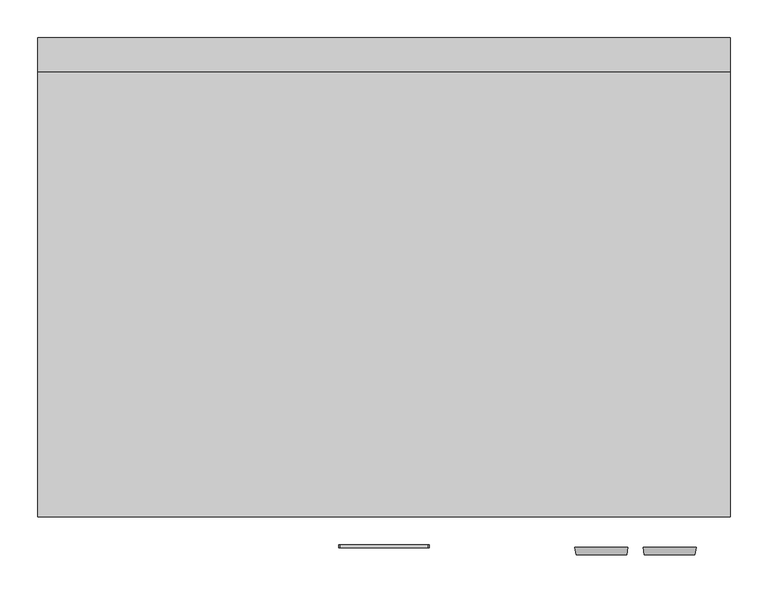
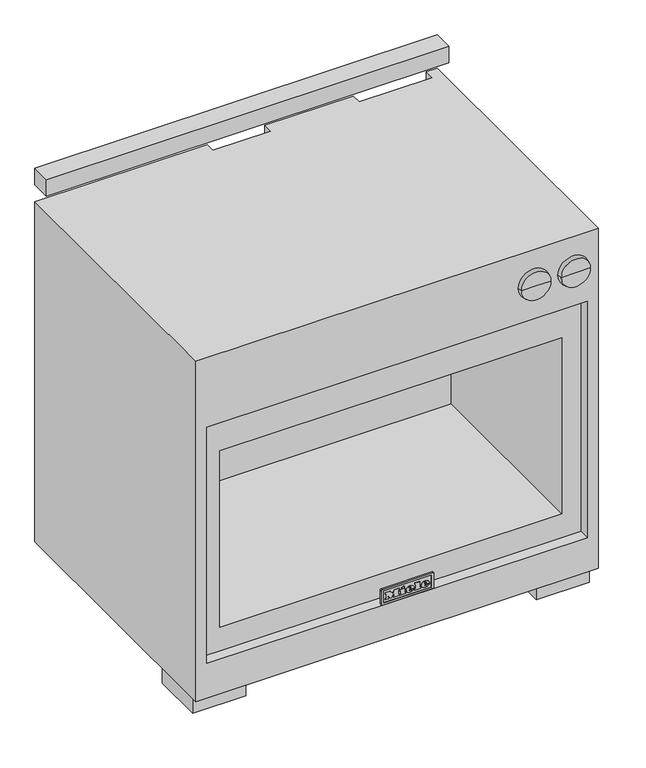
"""IFC4 building model written with IfcOpenShell, lengths in millimetres: proxy geometry, 10902410_USA_HR1936-2G_EDST-CLST : 25193671_USA_10902410_HR1936-2G_EDST-CLST."""

from ifc_helpers import new_model, si_unit, point, frame, frame_2d, origin, origin_with_axes, place, context, project, spatial, polyline, circle_curve, ellipse_curve, trimmed, segment, composite_curve, outline, extrude, faceted_brep, source, transform, mapped, element, save
from ifc_brep_helpers import plane_surface, cylinder_surface, revolved_surface, extruded_surface, advanced_brep


def specialty_equipment_07847b57(model_context):
    return source(origin(), model_context, "Body", "SolidModel", [
        advanced_brep(
        [(253.7632698, -683.0, 813.0), (320.2367302, -683.0, 813.0), (287.0, -683.0, 813.0), (252.0, -673.0, 813.0), (322.0, -673.0, 813.0), (287.0, -673.0, 813.0)],
        [
            (0, 1, circle_curve(frame((287.0, -683.0, 813.0), z_axis=(0.0, -1.0, 0.0), x_axis=(1.0, 0.0, 0.0)), 33.2367302)),
            (1, 2),
            (2, 0),
            (1, 0, circle_curve(frame((287.0, -683.0, 813.0), z_axis=(0.0, -1.0, 0.0), x_axis=(1.0, 0.0, 0.0)), 33.2367302)),
            (3, 4, circle_curve(frame((287.0, -673.0, 813.0), z_axis=(0.0, -1.0, 0.0), x_axis=(1.0, 0.0, 0.0)), 35.0)),
            (4, 1),
            (0, 3),
            (4, 3, circle_curve(frame((287.0, -673.0, 813.0), z_axis=(0.0, -1.0, 0.0), x_axis=(1.0, 0.0, 0.0)), 35.0)),
            (5, 4),
            (3, 5),
        ],
        [
            plane_surface(frame((287.0, -683.0, 813.0), z_axis=(0.0, -1.0, 0.0), x_axis=(1.0, 0.0, 0.0))),
            revolved_surface(polyline([(320.2367302, -683.0, 813.0), (322.0, -673.0, 813.0)]), (287.0, 751.3738435, 813.0), (0.0, 1.0, 0.0)),
            plane_surface(frame((287.0, -673.0, 813.0), z_axis=(0.0, 1.0, 0.0), x_axis=(1.0, 0.0, 0.0))),
        ],
        [
            (0, [[1, 2, 3]]),
            (0, [[4, -3, -2]]),
            (1, [[5, 6, -1, 7]]),
            (1, [[8, -7, -4, -6]]),
            (2, [[9, -5, 10]]),
            (2, [[-10, -8, -9]]),
        ],
    ),
        advanced_brep(
        [(343.7632698, -683.0, 813.0), (410.2367302, -683.0, 813.0), (377.0, -683.0, 813.0), (342.0, -673.0, 813.0), (412.0, -673.0, 813.0), (377.0, -673.0, 813.0)],
        [
            (0, 1, circle_curve(frame((377.0, -683.0, 813.0), z_axis=(0.0, -1.0, 0.0), x_axis=(1.0, 0.0, 0.0)), 33.2367302)),
            (1, 2),
            (2, 0),
            (1, 0, circle_curve(frame((377.0, -683.0, 813.0), z_axis=(0.0, -1.0, 0.0), x_axis=(1.0, 0.0, 0.0)), 33.2367302)),
            (3, 4, circle_curve(frame((377.0, -673.0, 813.0), z_axis=(0.0, -1.0, 0.0), x_axis=(1.0, 0.0, 0.0)), 35.0)),
            (4, 1),
            (0, 3),
            (4, 3, circle_curve(frame((377.0, -673.0, 813.0), z_axis=(0.0, -1.0, 0.0), x_axis=(1.0, 0.0, 0.0)), 35.0)),
            (5, 4),
            (3, 5),
        ],
        [
            plane_surface(frame((377.0, -683.0, 813.0), z_axis=(0.0, -1.0, 0.0), x_axis=(1.0, 0.0, 0.0))),
            revolved_surface(polyline([(410.2367302, -683.0, 813.0), (412.0, -673.0, 813.0)]), (377.0, 751.3738435, 813.0), (0.0, 1.0, 0.0)),
            plane_surface(frame((377.0, -673.0, 813.0), z_axis=(0.0, 1.0, 0.0), x_axis=(1.0, 0.0, 0.0))),
        ],
        [
            (0, [[1, 2, 3]]),
            (0, [[4, -3, -2]]),
            (1, [[5, 6, -1, 7]]),
            (1, [[8, -7, -4, -6]]),
            (2, [[9, -5, 10]]),
            (2, [[-10, -8, -9]]),
        ],
    ),
        extrude(outline(composite_curve([segment(trimmed(circle_curve(frame_2d((-152.0, 39.6862697)), 39.6862697), [point((-112.6710759, 45.0))], [point((-191.3289241, 45.0))], False, "CARTESIAN"), True, "CONTINUOUS"), segment(polyline([(-191.3289241, 45.0), (-112.6710759, 45.0)]), True, "CONTINUOUS")], self_intersect=False)), frame((282.0, 0.0, 0.0), z_axis=(1.0, 0.0, 0.0), x_axis=(0.0, 1.0, 0.0)), (0.0, 0.0, 1.0), 28.0),
        extrude(outline(composite_curve([segment(polyline([(-366.0009008, -40.0), (-367.2635363, -40.0), (-367.0191787, -38.9415709), (-366.8778726, -34.1117735)]), True, "CONTINUOUS"), segment(trimmed(circle_curve(frame_2d((-365.387549, -34.1553762)), 1.4909613), [point((-366.8778726, -34.1117735))], [point((-365.6381402, -32.6856246))], False, "CARTESIAN"), True, "CONTINUOUS"), segment(trimmed(circle_curve(frame_2d((-364.1175682, -37.7832301)), 5.3195602), [point((-365.6381402, -32.6856246))], [point((-362.440667, -32.7348914))], False, "CARTESIAN"), True, "CONTINUOUS"), segment(polyline([(-362.440667, -32.7348914), (-361.3643767, -33.4338425), (-360.8177226, -34.6616478), (-362.0710839, -34.8155412), (-362.6628147, -33.9704619)]), True, "CONTINUOUS"), segment(trimmed(circle_curve(frame_2d((-363.889909, -36.6278559)), 2.9270297), [point((-362.6628147, -33.9704619))], [point((-365.335883, -34.0829271))], True, "CARTESIAN"), True, "CONTINUOUS"), segment(polyline([(-365.335883, -34.0829271), (-365.6819155, -35.289686), (-362.4250607, -35.9227545)]), True, "CONTINUOUS"), segment(trimmed(circle_curve(frame_2d((-362.8373847, -38.0439776)), 2.1609254), [point((-362.4250607, -35.9227545))], [point((-361.2872437, -39.5495212))], False, "CARTESIAN"), True, "CONTINUOUS"), segment(trimmed(circle_curve(frame_2d((-363.2230106, -36.6941434)), 3.4496922), [point((-361.2872437, -39.5495212))], [point((-364.4810512, -39.9062626))], False, "CARTESIAN"), True, "CONTINUOUS"), segment(polyline([(-364.4810512, -39.9062626), (-365.6943945, -39.0566705), (-366.0009008, -40.0)]), True, "CONTINUOUS")], self_intersect=False), holes=[composite_curve([segment(polyline([(-365.6808047, -36.7241112), (-365.4778117, -37.8753414), (-364.6808418, -38.5929363), (-363.3846505, -38.8921857)]), True, "CONTINUOUS"), segment(trimmed(circle_curve(frame_2d((-363.1641539, -37.9371101)), 0.980198), [point((-363.3846505, -38.8921857))], [point((-362.5826105, -37.148063))], True, "CARTESIAN"), True, "CONTINUOUS"), segment(polyline([(-362.5826105, -37.148063), (-363.683896, -36.9339948), (-365.6808047, -36.7241112)]), True, "CONTINUOUS")], self_intersect=False)]), frame((0.0, 0.0, 753.0), z_axis=(0.0, 0.0, 1.0), x_axis=(1.0, 0.0, 0.0)), (0.0, 0.0, 1.0), 1.0),
        extrude(outline(composite_curve([segment(polyline([(-369.4581842, -37.6489066), (-368.202206, -37.8031213), (-369.1593436, -39.5606642)]), True, "CONTINUOUS"), segment(trimmed(circle_curve(frame_2d((-371.3057471, -36.6354063)), 3.6282478), [point((-369.1593436, -39.5606642))], [point((-372.8962663, -39.8964538))], False, "CARTESIAN"), True, "CONTINUOUS"), segment(trimmed(circle_curve(frame_2d((-371.7731504, -37.593725)), 2.5620205), [point((-372.8962663, -39.8964538))], [point((-374.32893, -37.7724425))], False, "CARTESIAN"), True, "CONTINUOUS"), segment(trimmed(circle_curve(frame_2d((-372.617737, -37.6527843)), 1.7153715), [point((-374.32893, -37.7724425))], [point((-373.147816, -36.021369))], False, "CARTESIAN"), True, "CONTINUOUS"), segment(polyline([(-373.147816, -36.021369), (-371.3069947, -35.4232499), (-369.987673, -33.9770867)]), True, "CONTINUOUS"), segment(trimmed(circle_curve(frame_2d((-371.1408399, -36.351197)), 2.6393548), [point((-369.987673, -33.9770867))], [point((-372.2940069, -33.9770867))], True, "CARTESIAN"), True, "CONTINUOUS"), segment(polyline([(-372.2940069, -33.9770867), (-372.7553884, -34.6611129), (-374.0084996, -34.5072502), (-373.5756304, -33.3795875)]), True, "CONTINUOUS"), segment(trimmed(circle_curve(frame_2d((-370.9527143, -36.6576461)), 4.1982564), [point((-373.5756304, -33.3795875))], [point((-371.0505395, -32.4605295))], False, "CARTESIAN"), True, "CONTINUOUS"), segment(trimmed(circle_curve(frame_2d((-370.9805679, -35.4626064)), 3.0028922), [point((-371.0505395, -32.4605295))], [point((-368.5718203, -33.6694816))], False, "CARTESIAN"), True, "CONTINUOUS"), segment(trimmed(circle_curve(frame_2d((-370.4380028, -34.5301363)), 2.0550823), [point((-368.5718203, -33.6694816))], [point((-369.4341096, -36.323335))], False, "CARTESIAN"), True, "CONTINUOUS"), segment(polyline([(-369.4341096, -36.323335), (-371.3494535, -36.9828408), (-373.0597255, -37.9076387), (-372.6768706, -38.6156702)]), True, "CONTINUOUS"), segment(trimmed(circle_curve(frame_2d((-371.3695779, -35.6018954)), 3.2850956), [point((-372.6768706, -38.6156702))], [point((-370.0622852, -38.6156702))], True, "CARTESIAN"), True, "CONTINUOUS"), segment(polyline([(-370.0622852, -38.6156702), (-369.4581842, -37.6489066)]), True, "CONTINUOUS")], self_intersect=False)), frame((0.0, 0.0, 753.0), z_axis=(0.0, 0.0, 1.0), x_axis=(1.0, 0.0, 0.0)), (0.0, 0.0, 1.0), 1.0),
        extrude(outline(composite_curve([segment(polyline([(-359.0941465, -34.8216074), (-355.0193946, -34.8216074), (-355.0193946, -36.0727848), (-357.8300756, -36.0727848), (-357.8300756, -37.8953779), (-356.5547934, -38.5734575), (-354.8554891, -38.8730907)]), True, "CONTINUOUS"), segment(trimmed(circle_curve(frame_2d((-354.7763582, -35.1835188)), 3.6904203), [point((-354.8554891, -38.8730907))], [point((-351.0917956, -34.975672))], True, "CARTESIAN"), True, "CONTINUOUS"), segment(trimmed(circle_curve(frame_2d((-355.2742118, -35.2116028)), 4.1890654), [point((-351.0917956, -34.975672))], [point((-354.8924604, -31.0399683))], True, "CARTESIAN"), True, "CONTINUOUS"), segment(trimmed(circle_curve(frame_2d((-355.1434541, -33.7827322)), 2.7542243), [point((-354.8924604, -31.0399683))], [point((-357.2311401, -31.9862582))], True, "CARTESIAN"), True, "CONTINUOUS"), segment(polyline([(-357.2311401, -31.9862582), (-357.7913432, -33.1348449), (-358.9545959, -32.808521), (-358.2222817, -31.1459412)]), True, "CONTINUOUS"), segment(trimmed(circle_curve(frame_2d((-355.0056573, -34.3038983)), 4.5077007), [point((-358.2222817, -31.1459412))], [point((-354.8478593, -29.7989604))], False, "CARTESIAN"), True, "CONTINUOUS"), segment(trimmed(circle_curve(frame_2d((-355.0297107, -35.0029797)), 5.2071956), [point((-354.8478593, -29.7989604))], [point((-349.8225151, -35.0029797))], False, "CARTESIAN"), True, "CONTINUOUS"), segment(trimmed(circle_curve(frame_2d((-355.0187023, -34.9634409)), 5.1963376), [point((-349.8225151, -35.0029797))], [point((-355.0187023, -40.1597785))], False, "CARTESIAN"), True, "CONTINUOUS"), segment(polyline([(-355.0187023, -40.1597785), (-357.0821579, -39.7823822), (-359.0941465, -38.5734575), (-359.0941465, -34.8216074)]), True, "CONTINUOUS")], self_intersect=False)), frame((0.0, 0.0, 753.0), z_axis=(0.0, 0.0, 1.0), x_axis=(1.0, 0.0, 0.0)), (0.0, 0.0, 1.0), 1.0),
        extrude(outline(polyline([(246.4261097, -49.2846028), (239.1553153, -49.2846028), (239.1553153, -48.0259878), (245.1324687, -48.0259878), (245.1324687, -45.0398896), (239.4699511, -45.0398896), (239.4699511, -43.7868997), (245.1324687, -43.7868997), (245.1324687, -40.484481), (239.0234692, -40.484481), (239.0234692, -39.223126), (246.4261097, -39.223126), (246.4261097, -49.2846028)])), frame((0.0, 0.0, 101.0), z_axis=(0.0, 0.0, 1.0), x_axis=(1.0, 0.0, 0.0)), (0.0, 0.0, 1.0), 1.0),
        extrude(outline(polyline([(237.0939455, -49.2781045), (230.9083542, -49.2781045), (230.9083542, -48.0259878), (235.9083542, -48.0259878), (235.9083542, -39.223126), (237.0939455, -39.223126), (237.0939455, -49.2781045)])), frame((0.0, 0.0, 101.0), z_axis=(0.0, 0.0, 1.0), x_axis=(1.0, 0.0, 0.0)), (0.0, 0.0, 1.0), 1.0),
        extrude(outline(composite_curve([segment(trimmed(circle_curve(frame_2d((239.0, -45.0)), 7.5), [point((239.0, -52.5))], [point((239.0, -37.5))], False, "CARTESIAN"), True, "CONTINUOUS"), segment(trimmed(circle_curve(frame_2d((239.0, -45.0)), 7.5), [point((239.0, -37.5))], [point((239.0, -52.5))], False, "CARTESIAN"), True, "CONTINUOUS")], self_intersect=False)), frame((0.0, 0.0, 102.0), z_axis=(0.0, 0.0, 1.0), x_axis=(1.0, 0.0, 0.0)), (0.0, 0.0, 1.0), 30.0),
        extrude(outline(composite_curve([segment(trimmed(circle_curve(frame_2d((-362.0, -35.0)), 7.5), [point((-369.5, -35.0))], [point((-354.5, -35.0))], False, "CARTESIAN"), True, "CONTINUOUS"), segment(trimmed(circle_curve(frame_2d((-362.0, -35.0)), 7.5), [point((-354.5, -35.0))], [point((-369.5, -35.0))], False, "CARTESIAN"), True, "CONTINUOUS")], self_intersect=False)), frame((0.0, 0.0, 754.0), z_axis=(0.0, 0.0, 1.0), x_axis=(1.0, 0.0, 0.0)), (0.0, 0.0, 1.0), 30.0),
        extrude(outline(polyline([(742.9900117, -299.5376107), (753.0405487, -296.8032463), (753.0405487, -298.1010309), (744.3952189, -300.1941056), (753.0411296, -302.6946617), (753.0411296, -304.5615338), (744.4117226, -307.0845612), (753.0419182, -309.165026), (753.0419182, -310.4626989), (742.9984871, -307.7244126), (742.9984871, -306.3735976), (751.8308623, -303.6286268), (742.9900117, -301.0716905), (742.9900117, -299.5376107)])), frame((0.0, -39.0, 0.0), z_axis=(0.0, 1.0, 0.0), x_axis=(0.0, 0.0, 1.0)), (0.0, 0.0, 1.0), 1.0),
        extrude(outline(polyline([(743.0, -288.4829639), (753.0509015, -288.4829639), (753.0509015, -289.7409127), (748.1386151, -289.7409127), (753.0475587, -294.8904554), (753.0475587, -296.6455728), (748.9164775, -292.3179994), (743.0, -296.8019347), (743.0, -295.2701694), (748.0664133, -291.4304743), (746.4465471, -289.7392234), (743.0, -289.7392234), (743.0, -288.4829639)])), frame((0.0, -39.0, 0.0), z_axis=(0.0, 1.0, 0.0), x_axis=(0.0, 0.0, 1.0)), (0.0, 0.0, 1.0), 1.0),
        extrude(outline(composite_curve([segment(trimmed(circle_curve(frame_2d((748.0, -299.0)), 7.5), [point((748.0, -291.5))], [point((748.0, -306.5))], False, "CARTESIAN"), True, "CONTINUOUS"), segment(trimmed(circle_curve(frame_2d((748.0, -299.0)), 7.5), [point((748.0, -306.5))], [point((748.0, -291.5))], False, "CARTESIAN"), True, "CONTINUOUS")], self_intersect=False)), frame((0.0, -69.0, 0.0), z_axis=(0.0, 1.0, 0.0), x_axis=(0.0, 0.0, 1.0)), (0.0, 0.0, 1.0), 30.0),
        faceted_brep([(-457.0, 0.0, 862.0), (-457.0, -633.0, 862.0), (457.0, -633.0, 862.0), (457.0, 0.0, 862.0), (432.0, 0.0, 862.0), (432.0, -23.0, 862.0), (266.0, -23.0, 862.0), (266.0, 0.0, 862.0), (65.0, 0.0, 862.0), (65.0, -23.0, 862.0), (-66.0, -23.0, 862.0), (-66.0, 0.0, 862.0), (457.0, 0.0, 45.0), (457.0, -633.0, 45.0), (-457.0, -633.0, 45.0), (-457.0, 0.0, 45.0), (-432.0, 0.0, 45.0), (-432.0, -75.0, 45.0), (432.0, -75.0, 45.0), (432.0, 0.0, 45.0), (266.0, 0.0, 132.0), (65.0, 0.0, 132.0), (-66.0, 0.0, 132.0), (-270.0, 0.0, 132.0), (-270.0, 0.0, 784.0), (-411.0, 0.0, 784.0), (-411.0, 0.0, 132.0), (-432.0, 0.0, 132.0), (432.0, -633.0, 695.0), (432.0, -633.0, 128.0), (-432.0, -633.0, 128.0), (-432.0, -633.0, 695.0), (432.0, -608.0, 695.0), (-432.0, -608.0, 695.0), (-432.0, -608.0, 128.0), (432.0, -608.0, 128.0), (388.0, -608.0, 608.0), (388.0, -608.0, 185.0), (-388.0, -608.0, 185.0), (-388.0, -608.0, 608.0), (388.0, -173.0, 608.0), (-388.0, -173.0, 608.0), (-388.0, -173.0, 185.0), (388.0, -173.0, 185.0), (432.0, -23.0, 132.0), (266.0, -23.0, 132.0), (65.0, -23.0, 132.0), (-66.0, -23.0, 132.0), (432.0, -75.0, 132.0), (-411.0, -69.0, 784.0), (-270.0, -69.0, 784.0), (-270.0, -69.0, 132.0), (-411.0, -69.0, 132.0), (-432.0, -75.0, 132.0)], [[[0, 1, 2, 3, 4, 5, 6, 7, 8, 9, 10, 11]], [[12, 13, 14, 15, 16, 17, 18, 19]], [[8, 7, 20, 21]], [[3, 12, 19, 4]], [[15, 0, 11, 22, 23, 24, 25, 26, 27, 16]], [[1, 0, 15, 14]], [[2, 1, 14, 13], [28, 29, 30, 31]], [[3, 2, 13, 12]], [[32, 33, 34, 35], [36, 37, 38, 39]], [[32, 35, 29, 28]], [[35, 34, 30, 29]], [[34, 33, 31, 30]], [[33, 32, 28, 31]], [[40, 41, 42, 43]], [[40, 43, 37, 36]], [[43, 42, 38, 37]], [[42, 41, 39, 38]], [[41, 40, 36, 39]], [[6, 5, 44, 45]], [[10, 9, 46, 47]], [[9, 8, 21, 46]], [[11, 10, 47, 22]], [[5, 4, 19, 18, 48, 44]], [[7, 6, 45, 20]], [[49, 50, 51, 52]], [[50, 49, 25, 24]], [[50, 24, 23, 51]], [[25, 49, 52, 26]], [[53, 48, 18, 17]], [[27, 53, 17, 16]], [[48, 53, 27, 26, 52, 51, 23, 22, 47, 46, 21, 20, 45, 44]]]),
        extrude(outline(composite_curve([segment(trimmed(circle_curve(frame_2d((-152.0, 39.6862697)), 39.6862697), [point((-112.6710759, 45.0))], [point((-191.3289241, 45.0))], False, "CARTESIAN"), True, "CONTINUOUS"), segment(polyline([(-191.3289241, 45.0), (-112.6710759, 45.0)]), True, "CONTINUOUS")], self_intersect=False)), frame((-310.0, 0.0, 0.0), z_axis=(1.0, 0.0, 0.0), x_axis=(0.0, 1.0, 0.0)), (0.0, 0.0, 1.0), 28.0),
        extrude(outline(polyline([(-330.0, -489.0), (-330.0, -609.0), (-450.0, -609.0), (-450.0, -489.0), (-330.0, -489.0)])), origin_with_axes(), (0.0, 0.0, 1.0), 45.0),
        extrude(outline(polyline([(450.0, -489.0), (450.0, -609.0), (330.0, -609.0), (330.0, -489.0), (450.0, -489.0)])), origin_with_axes(), (0.0, 0.0, 1.0), 45.0),
        advanced_brep(
        [(39.18, -674.0, 175.9105), (39.18, -674.0, 177.577), (50.2185, -674.0, 177.577), (31.0125, -674.0, 177.577), (35.55, -674.0, 172.0), (49.938, -674.0, 175.9105), (44.955, -674.0, 175.9105), (41.028, -674.0, 174.0625), (39.18, -674.0, 179.689), (39.18, -674.0, 181.4875), (42.0015, -674.0, 181.4875), (42.0015, -674.0, 179.689), (39.18, -673.0, 175.9105), (41.028, -673.0, 174.0625), (44.955, -673.0, 175.9105), (49.938, -673.0, 175.9105), (35.55, -673.0, 172.0), (31.0125, -673.0, 177.577), (50.2185, -673.0, 177.577), (39.18, -673.0, 177.577), (39.18, -673.0, 179.689), (42.0015, -673.0, 179.689), (42.0015, -673.0, 181.4875), (39.18, -673.0, 181.4875)],
        [
            (0, 1),
            (1, 2),
            (2, 3, ellipse_curve(frame((40.6155, -674.0, 177.577), z_axis=(0.0, -1.0, 0.0), x_axis=(-1.0, 0.0, 0.0)), 9.603, 7.9365)),
            (3, 4, circle_curve(frame((37.39809, -674.0, 178.138), z_axis=(0.0, -1.0, 0.0), x_axis=(0.0, 0.0, -1.0)), 6.4101857)),
            (4, 5, circle_curve(frame((40.4232618, -674.0, 182.494), z_axis=(0.0, -1.0, 0.0), x_axis=(0.0, 0.0, -1.0)), 11.5703378)),
            (5, 6),
            (6, 7, circle_curve(frame((41.8345588, -674.0, 177.445), z_axis=(0.0, 1.0, 0.0), x_axis=(0.0, 0.0, -1.0)), 3.4773328)),
            (7, 0, circle_curve(frame((41.028, -674.0, 175.9105), z_axis=(0.0, 1.0, 0.0), x_axis=(0.0, 0.0, -1.0)), 1.848)),
            (8, 9),
            (9, 10, circle_curve(frame((40.59075, -674.0, 181.4875), z_axis=(0.0, 1.0, 0.0), x_axis=(0.0, 0.0, -1.0)), 1.41075)),
            (10, 11),
            (11, 8),
            (12, 13, circle_curve(frame((41.028, -673.0, 175.9105), z_axis=(0.0, -1.0, 0.0), x_axis=(0.0, 0.0, -1.0)), 1.848)),
            (13, 14, circle_curve(frame((41.8345588, -673.0, 177.445), z_axis=(0.0, -1.0, 0.0), x_axis=(0.0, 0.0, -1.0)), 3.4773328)),
            (14, 15),
            (15, 16, circle_curve(frame((40.4232618, -673.0, 182.494), z_axis=(0.0, 1.0, 0.0), x_axis=(0.0, 0.0, -1.0)), 11.5703378)),
            (16, 17, circle_curve(frame((37.39809, -673.0, 178.138), z_axis=(0.0, 1.0, 0.0), x_axis=(0.0, 0.0, -1.0)), 6.4101857)),
            (17, 18, ellipse_curve(frame((40.6155, -673.0, 177.577), z_axis=(0.0, 1.0, 0.0), x_axis=(-1.0, 0.0, 0.0)), 9.603, 7.9365)),
            (18, 19),
            (19, 12),
            (20, 21),
            (21, 22),
            (22, 23, circle_curve(frame((40.59075, -673.0, 181.4875), z_axis=(0.0, -1.0, 0.0), x_axis=(0.0, 0.0, -1.0)), 1.41075)),
            (23, 20),
            (0, 12),
            (19, 1),
            (18, 2),
            (5, 15),
            (14, 6),
            (17, 3),
            (13, 7),
            (16, 4),
            (8, 20),
            (23, 9),
            (22, 10),
            (21, 11),
        ],
        [
            plane_surface(frame((39.18, -674.0, 177.577), z_axis=(0.0, -1.0, 0.0), x_axis=(0.0, 0.0, 1.0))),
            plane_surface(frame((39.18, -673.0, 177.577), z_axis=(0.0, 1.0, 0.0), x_axis=(0.0, 0.0, -1.0))),
            plane_surface(frame((39.18, -674.0, 175.9105), z_axis=(1.0, 0.0, 0.0), x_axis=(0.0, 1.0, 0.0))),
            plane_surface(frame((39.18, -674.0, 177.577), z_axis=(0.0, 0.0, -1.0), x_axis=(0.0, 1.0, 0.0))),
            plane_surface(frame((49.938, -674.0, 175.9105), z_axis=(0.0, 0.0, 1.0), x_axis=(0.0, 1.0, 0.0))),
            extruded_surface(trimmed(ellipse_curve(frame((40.6155, -672.0, 177.577), z_axis=(0.0, -1.0, 0.0), x_axis=(-1.0, 0.0, 0.0)), 9.603, 7.9365), [point((50.2185, -672.0, 177.577))], [point((31.0125, -672.0, 177.577))], True, "CARTESIAN"), (0.0, -1.0, 0.0), 1.0),
            revolved_surface(polyline([(41.8345588, -673.0, 173.9676672), (41.8345588, -674.0, 173.9676672)]), (41.8345588, -673.0, 177.445), (0.0, 1.0, 0.0)),
            revolved_surface(polyline([(41.028, -673.0, 174.0625), (41.028, -674.0, 174.0625)]), (41.028, -673.0, 175.9105), (0.0, 1.0, 0.0)),
            cylinder_surface(frame((37.39809, -673.0, 178.138), z_axis=(0.0, -1.0, 0.0), x_axis=(0.0, 0.0, -1.0)), 6.4101857),
            cylinder_surface(frame((40.4232618, -673.0, 182.494), z_axis=(0.0, -1.0, 0.0), x_axis=(0.0, 0.0, -1.0)), 11.5703378),
            plane_surface(frame((39.18, -674.0, 179.689), z_axis=(1.0, 0.0, 0.0), x_axis=(0.0, 1.0, 0.0))),
            revolved_surface(polyline([(40.59075, -673.0, 180.07675), (40.59075, -674.0, 180.07675)]), (40.59075, -673.0, 181.4875), (0.0, 1.0, 0.0)),
            plane_surface(frame((42.0015, -674.0, 181.4875), z_axis=(-1.0, 0.0, 0.0), x_axis=(0.0, 1.0, 0.0))),
            plane_surface(frame((42.0015, -674.0, 179.689), z_axis=(0.0, 0.0, 1.0), x_axis=(0.0, 1.0, 0.0))),
        ],
        [
            (0, [[1, 2, 3, 4, 5, 6, 7, 8], [9, 10, 11, 12]]),
            (1, [[13, 14, 15, 16, 17, 18, 19, 20], [21, 22, 23, 24]]),
            (2, [[-1, 25, -20, 26]]),
            (3, [[-2, -26, -19, 27]]),
            (4, [[-6, 28, -15, 29]]),
            (5, [[-3, -27, -18, 30]]),
            (6, [[-7, -29, -14, 31]]),
            (7, [[-8, -31, -13, -25]]),
            (8, [[-4, -30, -17, 32]]),
            (9, [[-5, -32, -16, -28]]),
            (10, [[-9, 33, -24, 34]]),
            (11, [[-10, -34, -23, 35]]),
            (12, [[-11, -35, -22, 36]]),
            (13, [[-12, -36, -21, -33]]),
        ],
    ),
        advanced_brep(
        [(4.7445, -674.0, 175.9105), (4.7445, -674.0, 177.577), (15.783, -674.0, 177.577), (-3.423, -674.0, 177.577), (1.1145, -674.0, 172.0), (15.5025, -674.0, 175.9105), (10.5195, -674.0, 175.9105), (6.5925, -674.0, 174.0625), (4.7445, -674.0, 179.689), (4.7445, -674.0, 181.4875), (7.566, -674.0, 181.4875), (7.566, -674.0, 179.689), (4.7445, -673.0, 175.9105), (6.5925, -673.0, 174.0625), (10.5195, -673.0, 175.9105), (15.5025, -673.0, 175.9105), (1.1145, -673.0, 172.0), (-3.423, -673.0, 177.577), (15.783, -673.0, 177.577), (4.7445, -673.0, 177.577), (4.7445, -673.0, 179.689), (7.566, -673.0, 179.689), (7.566, -673.0, 181.4875), (4.7445, -673.0, 181.4875)],
        [
            (0, 1),
            (1, 2),
            (2, 3, ellipse_curve(frame((6.18, -674.0, 177.577), z_axis=(0.0, -1.0, 0.0), x_axis=(-1.0, 0.0, 0.0)), 9.603, 7.9365)),
            (3, 4, circle_curve(frame((2.96259, -674.0, 178.138), z_axis=(0.0, -1.0, 0.0), x_axis=(0.0, 0.0, -1.0)), 6.4101857)),
            (4, 5, circle_curve(frame((5.9877618, -674.0, 182.494), z_axis=(0.0, -1.0, 0.0), x_axis=(0.0, 0.0, -1.0)), 11.5703378)),
            (5, 6),
            (6, 7, circle_curve(frame((7.3990588, -674.0, 177.445), z_axis=(0.0, 1.0, 0.0), x_axis=(0.0, 0.0, -1.0)), 3.4773328)),
            (7, 0, circle_curve(frame((6.5925, -674.0, 175.9105), z_axis=(0.0, 1.0, 0.0), x_axis=(0.0, 0.0, -1.0)), 1.848)),
            (8, 9),
            (9, 10, circle_curve(frame((6.15525, -674.0, 181.4875), z_axis=(0.0, 1.0, 0.0), x_axis=(0.0, 0.0, -1.0)), 1.41075)),
            (10, 11),
            (11, 8),
            (12, 13, circle_curve(frame((6.5925, -673.0, 175.9105), z_axis=(0.0, -1.0, 0.0), x_axis=(0.0, 0.0, -1.0)), 1.848)),
            (13, 14, circle_curve(frame((7.3990588, -673.0, 177.445), z_axis=(0.0, -1.0, 0.0), x_axis=(0.0, 0.0, -1.0)), 3.4773328)),
            (14, 15),
            (15, 16, circle_curve(frame((5.9877618, -673.0, 182.494), z_axis=(0.0, 1.0, 0.0), x_axis=(0.0, 0.0, -1.0)), 11.5703378)),
            (16, 17, circle_curve(frame((2.96259, -673.0, 178.138), z_axis=(0.0, 1.0, 0.0), x_axis=(0.0, 0.0, -1.0)), 6.4101857)),
            (17, 18, ellipse_curve(frame((6.18, -673.0, 177.577), z_axis=(0.0, 1.0, 0.0), x_axis=(-1.0, 0.0, 0.0)), 9.603, 7.9365)),
            (18, 19),
            (19, 12),
            (20, 21),
            (21, 22),
            (22, 23, circle_curve(frame((6.15525, -673.0, 181.4875), z_axis=(0.0, -1.0, 0.0), x_axis=(0.0, 0.0, -1.0)), 1.41075)),
            (23, 20),
            (0, 12),
            (19, 1),
            (18, 2),
            (5, 15),
            (14, 6),
            (17, 3),
            (13, 7),
            (16, 4),
            (8, 20),
            (23, 9),
            (22, 10),
            (21, 11),
        ],
        [
            plane_surface(frame((4.7445, -674.0, 177.577), z_axis=(0.0, -1.0, 0.0), x_axis=(0.0, 0.0, 1.0))),
            plane_surface(frame((4.7445, -673.0, 177.577), z_axis=(0.0, 1.0, 0.0), x_axis=(0.0, 0.0, -1.0))),
            plane_surface(frame((4.7445, -674.0, 175.9105), z_axis=(1.0, 0.0, 0.0), x_axis=(0.0, 1.0, 0.0))),
            plane_surface(frame((4.7445, -674.0, 177.577), z_axis=(0.0, 0.0, -1.0), x_axis=(0.0, 1.0, 0.0))),
            plane_surface(frame((15.5025, -674.0, 175.9105), z_axis=(0.0, 0.0, 1.0), x_axis=(0.0, 1.0, 0.0))),
            extruded_surface(trimmed(ellipse_curve(frame((6.18, -672.0, 177.577), z_axis=(0.0, -1.0, 0.0), x_axis=(-1.0, 0.0, 0.0)), 9.603, 7.9365), [point((15.783, -672.0, 177.577))], [point((-3.423, -672.0, 177.577))], True, "CARTESIAN"), (0.0, -1.0, 0.0), 1.0),
            revolved_surface(polyline([(7.3990588, -673.0, 173.9676672), (7.3990588, -674.0, 173.9676672)]), (7.3990588, -673.0, 177.445), (0.0, 1.0, 0.0)),
            revolved_surface(polyline([(6.5925, -673.0, 174.0625), (6.5925, -674.0, 174.0625)]), (6.5925, -673.0, 175.9105), (0.0, 1.0, 0.0)),
            cylinder_surface(frame((2.96259, -673.0, 178.138), z_axis=(0.0, -1.0, 0.0), x_axis=(0.0, 0.0, -1.0)), 6.4101857),
            cylinder_surface(frame((5.9877618, -673.0, 182.494), z_axis=(0.0, -1.0, 0.0), x_axis=(0.0, 0.0, -1.0)), 11.5703378),
            plane_surface(frame((4.7445, -674.0, 179.689), z_axis=(1.0, 0.0, 0.0), x_axis=(0.0, 1.0, 0.0))),
            revolved_surface(polyline([(6.15525, -673.0, 180.07675), (6.15525, -674.0, 180.07675)]), (6.15525, -673.0, 181.4875), (0.0, 1.0, 0.0)),
            plane_surface(frame((7.566, -674.0, 181.4875), z_axis=(-1.0, 0.0, 0.0), x_axis=(0.0, 1.0, 0.0))),
            plane_surface(frame((7.566, -674.0, 179.689), z_axis=(0.0, 0.0, 1.0), x_axis=(0.0, 1.0, 0.0))),
        ],
        [
            (0, [[1, 2, 3, 4, 5, 6, 7, 8], [9, 10, 11, 12]]),
            (1, [[13, 14, 15, 16, 17, 18, 19, 20], [21, 22, 23, 24]]),
            (2, [[-1, 25, -20, 26]]),
            (3, [[-2, -26, -19, 27]]),
            (4, [[-6, 28, -15, 29]]),
            (5, [[-3, -27, -18, 30]]),
            (6, [[-7, -29, -14, 31]]),
            (7, [[-8, -31, -13, -25]]),
            (8, [[-4, -30, -17, 32]]),
            (9, [[-5, -32, -16, -28]]),
            (10, [[-9, 33, -24, 34]]),
            (11, [[-10, -34, -23, 35]]),
            (12, [[-11, -35, -22, 36]]),
            (13, [[-12, -36, -21, -33]]),
        ],
    ),
        extrude(outline(polyline([(187.5265, -13.29), (184.8535, -12.036), (187.4605, -6.4425), (190.1335, -7.68), (187.5265, -13.29)])), frame((0.0, -674.0, 0.0), z_axis=(0.0, 1.0, 0.0), x_axis=(0.0, 0.0, 1.0)), (0.0, 0.0, 1.0), 1.0),
        extrude(outline(polyline([(184.4905, -17.3655), (181.537, -17.3655), (181.537, -15.402), (174.772, -15.402), (174.772, -17.3655), (172.0, -17.3655), (172.0, -4.347), (174.772, -4.347), (174.772, -6.261), (184.4905, -6.261), (184.4905, -17.3655)])), frame((0.0, -674.0, 0.0), z_axis=(0.0, 1.0, 0.0), x_axis=(0.0, 0.0, 1.0)), (0.0, 0.0, 1.0), 1.0),
        extrude(outline(polyline([(185.8105, 16.707), (185.8105, 18.687), (174.772, 18.687), (174.772, 16.707), (172.0, 16.707), (172.0, 30.0885), (174.772, 30.0885), (174.772, 28.059), (188.5, 28.059), (188.5, 16.707), (185.8105, 16.707)])), frame((0.0, -674.0, 0.0), z_axis=(0.0, 1.0, 0.0), x_axis=(0.0, 0.0, 1.0)), (0.0, 0.0, 1.0), 1.0),
        extrude(outline(polyline([(185.8105, -50.25), (185.8105, -48.2535), (174.772, -48.2535), (174.772, -50.25), (172.0, -50.25), (172.0, -42.99), (174.772, -42.99), (174.772, -44.97), (181.7366247, -44.97), (172.0, -37.5945), (182.1277223, -30.186), (174.772, -30.186), (174.772, -32.2155), (172.0, -32.2155), (172.0, -19.0485), (174.772, -19.0485), (174.772, -21.144), (185.8105, -21.144), (185.8105, -19.0485), (188.5, -19.0485), (188.5, -29.097), (182.3125, -33.915), (188.5, -38.7495), (188.5, -50.25), (185.8105, -50.25)])), frame((0.0, -674.0, 0.0), z_axis=(0.0, 1.0, 0.0), x_axis=(0.0, 0.0, 1.0)), (0.0, 0.0, 1.0), 1.0),
        advanced_brep(
        [(57.5, -674.0, 199.0), (-57.5, -674.0, 199.0), (-60.0, -674.0, 196.5), (-60.0, -674.0, 164.5), (-57.5, -674.0, 162.0), (57.5, -674.0, 162.0), (60.0, -674.0, 164.5), (60.0, -674.0, 196.5), (-52.5, -674.0, 195.0), (52.5, -674.0, 195.0), (54.0, -674.0, 193.5), (54.0, -674.0, 167.5), (52.5, -674.0, 166.0), (-52.5, -674.0, 166.0), (-54.0, -674.0, 167.5), (-54.0, -674.0, 193.5), (57.5, -670.0, 199.0), (60.0, -670.0, 196.5), (60.0, -670.0, 164.5), (57.5, -670.0, 162.0), (-57.5, -670.0, 162.0), (-60.0, -670.0, 164.5), (-60.0, -670.0, 196.5), (-57.5, -670.0, 199.0), (52.5, -673.0, 195.0), (-52.5, -673.0, 195.0), (-54.0, -673.0, 193.5), (-54.0, -673.0, 167.5), (-52.5, -673.0, 166.0), (52.5, -673.0, 166.0), (54.0, -673.0, 167.5), (54.0, -673.0, 193.5)],
        [
            (0, 1),
            (1, 2, circle_curve(frame((-57.5, -674.0, 196.5), z_axis=(0.0, -1.0, 0.0), x_axis=(-1.0, 0.0, 0.0)), 2.5)),
            (2, 3),
            (3, 4, circle_curve(frame((-57.5, -674.0, 164.5), z_axis=(0.0, -1.0, 0.0), x_axis=(-1.0, 0.0, 0.0)), 2.5)),
            (4, 5),
            (5, 6, circle_curve(frame((57.5, -674.0, 164.5), z_axis=(0.0, -1.0, 0.0), x_axis=(-1.0, 0.0, 0.0)), 2.5)),
            (6, 7),
            (7, 0, circle_curve(frame((57.5, -674.0, 196.5), z_axis=(0.0, -1.0, 0.0), x_axis=(-1.0, 0.0, 0.0)), 2.5)),
            (8, 9),
            (9, 10, circle_curve(frame((52.5, -674.0, 193.5), z_axis=(0.0, 1.0, 0.0), x_axis=(1.0, 0.0, 0.0)), 1.5)),
            (10, 11),
            (11, 12, circle_curve(frame((52.5, -674.0, 167.5), z_axis=(0.0, 1.0, 0.0), x_axis=(1.0, 0.0, 0.0)), 1.5)),
            (12, 13),
            (13, 14, circle_curve(frame((-52.5, -674.0, 167.5), z_axis=(0.0, 1.0, 0.0), x_axis=(1.0, 0.0, 0.0)), 1.5)),
            (14, 15),
            (15, 8, circle_curve(frame((-52.5, -674.0, 193.5), z_axis=(0.0, 1.0, 0.0), x_axis=(1.0, 0.0, 0.0)), 1.5)),
            (16, 17, circle_curve(frame((57.5, -670.0, 196.5), z_axis=(0.0, 1.0, 0.0), x_axis=(-1.0, 0.0, 0.0)), 2.5)),
            (17, 18),
            (18, 19, circle_curve(frame((57.5, -670.0, 164.5), z_axis=(0.0, 1.0, 0.0), x_axis=(-1.0, 0.0, 0.0)), 2.5)),
            (19, 20),
            (20, 21, circle_curve(frame((-57.5, -670.0, 164.5), z_axis=(0.0, 1.0, 0.0), x_axis=(-1.0, 0.0, 0.0)), 2.5)),
            (21, 22),
            (22, 23, circle_curve(frame((-57.5, -670.0, 196.5), z_axis=(0.0, 1.0, 0.0), x_axis=(-1.0, 0.0, 0.0)), 2.5)),
            (23, 16),
            (0, 16),
            (23, 1),
            (22, 2),
            (21, 3),
            (20, 4),
            (19, 5),
            (18, 6),
            (17, 7),
            (24, 25),
            (25, 26, circle_curve(frame((-52.5, -673.0, 193.5), z_axis=(0.0, -1.0, 0.0), x_axis=(1.0, 0.0, 0.0)), 1.5)),
            (26, 27),
            (27, 28, circle_curve(frame((-52.5, -673.0, 167.5), z_axis=(0.0, -1.0, 0.0), x_axis=(1.0, 0.0, 0.0)), 1.5)),
            (28, 29),
            (29, 30, circle_curve(frame((52.5, -673.0, 167.5), z_axis=(0.0, -1.0, 0.0), x_axis=(1.0, 0.0, 0.0)), 1.5)),
            (30, 31),
            (31, 24, circle_curve(frame((52.5, -673.0, 193.5), z_axis=(0.0, -1.0, 0.0), x_axis=(1.0, 0.0, 0.0)), 1.5)),
            (24, 9),
            (8, 25),
            (15, 26),
            (14, 27),
            (13, 28),
            (12, 29),
            (11, 30),
            (10, 31),
        ],
        [
            plane_surface(frame((55.0, -674.0, 196.5), z_axis=(0.0, -1.0, 0.0), x_axis=(0.0, 0.0, -1.0))),
            plane_surface(frame((55.0, -670.0, 196.5), z_axis=(0.0, 1.0, 0.0), x_axis=(0.0, 0.0, 1.0))),
            plane_surface(frame((-57.5, -670.0, 199.0), z_axis=(0.0, 0.0, 1.0), x_axis=(0.0, -1.0, 0.0))),
            cylinder_surface(frame((-57.5, -674.0, 196.5), z_axis=(0.0, 1.0, 0.0), x_axis=(-1.0, 0.0, 0.0)), 2.5),
            plane_surface(frame((-60.0, -670.0, 164.5), z_axis=(-1.0, 0.0, 0.0), x_axis=(0.0, -1.0, 0.0))),
            cylinder_surface(frame((-57.5, -674.0, 164.5), z_axis=(0.0, 1.0, 0.0), x_axis=(-1.0, 0.0, 0.0)), 2.5),
            plane_surface(frame((57.5, -670.0, 162.0), z_axis=(0.0, 0.0, -1.0), x_axis=(0.0, -1.0, 0.0))),
            cylinder_surface(frame((57.5, -674.0, 164.5), z_axis=(0.0, 1.0, 0.0), x_axis=(-1.0, 0.0, 0.0)), 2.5),
            plane_surface(frame((60.0, -670.0, 196.5), z_axis=(1.0, 0.0, 0.0), x_axis=(0.0, -1.0, 0.0))),
            cylinder_surface(frame((57.5, -674.0, 196.5), z_axis=(0.0, 1.0, 0.0), x_axis=(-1.0, 0.0, 0.0)), 2.5),
            plane_surface(frame((-52.5, -673.0, 195.0), z_axis=(0.0, -1.0, 0.0), x_axis=(1.0, 0.0, 0.0))),
            plane_surface(frame((52.5, -674.0, 195.0), z_axis=(0.0, 0.0, -1.0), x_axis=(0.0, 1.0, 0.0))),
            revolved_surface(polyline([(-51.0, -674.0, 193.5), (-51.0, -673.0, 193.5)]), (-52.5, -673.0, 193.5), (0.0, -1.0, 0.0)),
            plane_surface(frame((-54.0, -674.0, 193.5), z_axis=(1.0, 0.0, 0.0), x_axis=(0.0, 1.0, 0.0))),
            revolved_surface(polyline([(-51.0, -674.0, 167.5), (-51.0, -673.0, 167.5)]), (-52.5, -673.0, 167.5), (0.0, -1.0, 0.0)),
            plane_surface(frame((-52.5, -674.0, 166.0), z_axis=(0.0, 0.0, 1.0), x_axis=(0.0, 1.0, 0.0))),
            revolved_surface(polyline([(54.0, -674.0, 167.5), (54.0, -673.0, 167.5)]), (52.5, -673.0, 167.5), (0.0, -1.0, 0.0)),
            plane_surface(frame((54.0, -674.0, 167.5), z_axis=(-1.0, 0.0, 0.0), x_axis=(0.0, 1.0, 0.0))),
            revolved_surface(polyline([(54.0, -674.0, 193.5), (54.0, -673.0, 193.5)]), (52.5, -673.0, 193.5), (0.0, -1.0, 0.0)),
        ],
        [
            (0, [[1, 2, 3, 4, 5, 6, 7, 8], [9, 10, 11, 12, 13, 14, 15, 16]]),
            (1, [[17, 18, 19, 20, 21, 22, 23, 24]]),
            (2, [[-1, 25, -24, 26]]),
            (3, [[-2, -26, -23, 27]]),
            (4, [[-3, -27, -22, 28]]),
            (5, [[-4, -28, -21, 29]]),
            (6, [[-5, -29, -20, 30]]),
            (7, [[-6, -30, -19, 31]]),
            (8, [[-7, -31, -18, 32]]),
            (9, [[-8, -32, -17, -25]]),
            (10, [[33, 34, 35, 36, 37, 38, 39, 40]]),
            (11, [[-33, 41, -9, 42]]),
            (12, [[-34, -42, -16, 43]]),
            (13, [[-35, -43, -15, 44]]),
            (14, [[-36, -44, -14, 45]]),
            (15, [[-37, -45, -13, 46]]),
            (16, [[-38, -46, -12, 47]]),
            (17, [[-39, -47, -11, 48]]),
            (18, [[-40, -48, -10, -41]]),
        ],
    ),
        extrude(outline(polyline([(457.0, 0.0), (457.0, -45.0), (-457.0, -45.0), (-457.0, 0.0), (457.0, 0.0)])), frame((0.0, 0.0, 902.0), z_axis=(0.0, 0.0, 1.0), x_axis=(1.0, 0.0, 0.0)), (0.0, 0.0, 1.0), 40.0),
    ])


if __name__ == "__main__":
    model = new_model("IFC4")
    model_context = context("Model", 3, world=origin())
    ifc_project = project(units=[si_unit("LENGTHUNIT", "METRE", prefix="MILLI")], contexts=[model_context])
    site = spatial("IfcSite", under=ifc_project)
    building = spatial("IfcBuilding", under=site)
    placement = place(None, origin())
    specialty_equipment_shape = specialty_equipment_07847b57(model_context)
    element("IfcBuildingElementProxy", 1, Name="10902410_USA_HR1936-2G_EDST-CLST : 25193671_USA_10902410_HR1936-2G_EDST-CLST", ObjectType="10902410_USA_HR1936-2G_EDST-CLST : 25193671_USA_10902410_HR1936-2G_EDST-CLST", at=placement, inside=building, context=model_context, shape_type="MappedRepresentation", body=[
        mapped(specialty_equipment_shape, transform((0.0, 0.0, 0.0), x_axis=(1.0, 0.0, 0.0), y_axis=(0.0, 1.0, 0.0), z_axis=(0.0, 0.0, 1.0))),
    ])
    save(model, "model.ifc")
